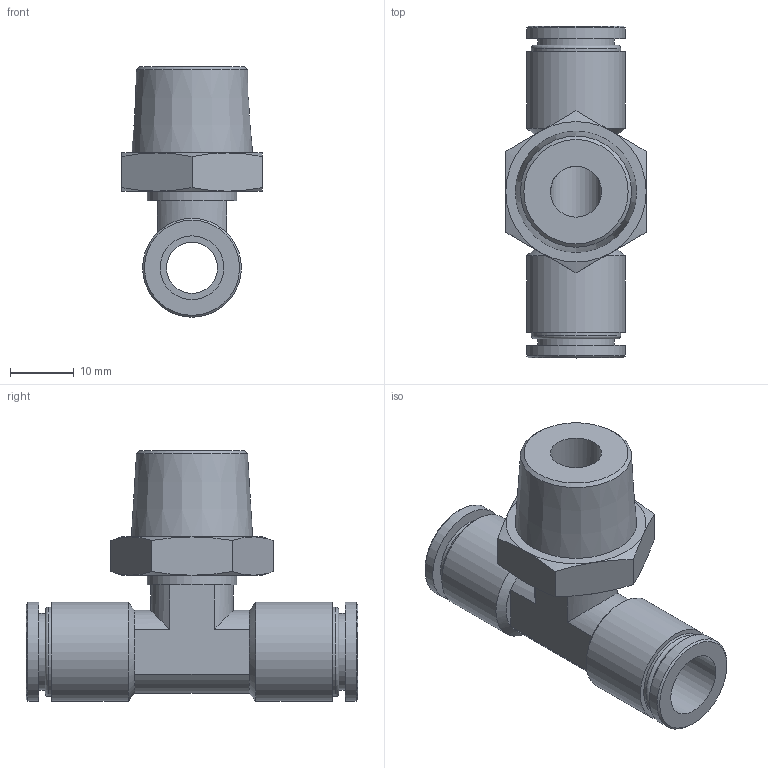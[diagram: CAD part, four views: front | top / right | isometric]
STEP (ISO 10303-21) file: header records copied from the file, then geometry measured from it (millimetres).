
FILE_DESCRIPTION(/* description */ (''),/* implementation_level */ '2;1');
FILE_NAME(/* name */ 'LXH31 0010 B4.stp',/* time_stamp */ '2026-04-22T20:52:40+02:00',/* author */ ('freju'),/* organization */ (''),/* preprocessor_version */ 'ST-DEVELOPER v20.1',/* originating_system */ 'Autodesk Inventor 2026',/* authorisation */ '');
FILE_SCHEMA (('AUTOMOTIVE_DESIGN { 1 0 10303 214 3 1 1 }'));
Length unit declared in the file: millimetre
Products named in the file (1): LXH31 0010 B4
Bounding box: 22 x 52 x 39.25 mm (x, y, z)
Volume: 10057.4 mm3; surface area: 7122.3 mm2
Topology: 1 solids, 1 shells, 64 faces, 133 edges, 81 vertices
Faces by surface type: plane 26, cylinder 18, cone 18, torus 2
Full cylindrical faces by diameter (mm): 8 x2, 10 x2, 12 x2, 14 x3, 15.5 x4
Entity records: 1727 total; most frequent: CARTESIAN_POINT 327, DIRECTION 306, ORIENTED_EDGE 266, EDGE_CURVE 133, AXIS2_PLACEMENT_3D 132, VERTEX_POINT 81, EDGE_LOOP 78, FACE_OUTER_BOUND 64
